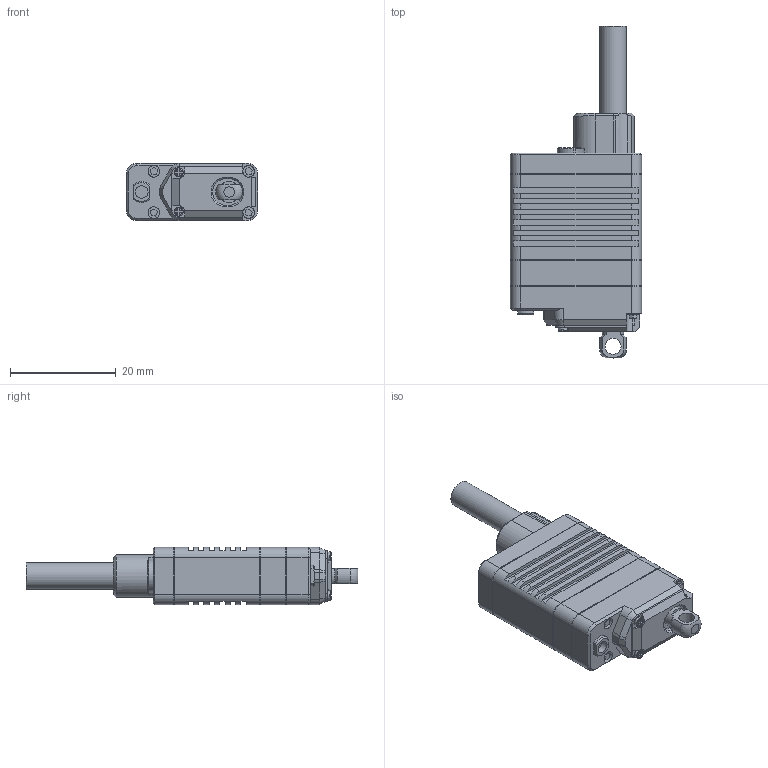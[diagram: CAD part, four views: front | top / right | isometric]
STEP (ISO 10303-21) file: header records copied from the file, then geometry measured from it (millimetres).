
FILE_DESCRIPTION (( 'STEP AP203' ), '1' );
FILE_NAME ('LAS16-0x3D.STEP', '2024-09-19T03:54:00', ( '' ), ( '' ), 'SwSTEP 2.0', 'SolidWorks 2021', '' );
FILE_SCHEMA (( 'CONFIG_CONTROL_DESIGN' ));
Length unit declared in the file: millimetre
Products named in the file (4): ACBO-S30; LAS16-0x3D; exA820116-015祥凄詩杶奪; Part1^LAS16-0x3D
Assembly tree (3 placements, depth 2):
  LAS16-0x3D
    exA820116-015祥凄詩杶奪
    ACBO-S30
    Part1^LAS16-0x3D
Bounding box: 24.8 x 62.7 x 10.8 mm (x, y, z)
Volume: 9112.1 mm3; surface area: 4376.1 mm2
Topology: 3 solids, 15 shells, 559 faces, 1384 edges, 886 vertices
Faces by surface type: plane 361, cylinder 113, cone 56, torus 29
Full cylindrical faces by diameter (mm): 0.95 x2, 1 x6, 1.1 x6, 1.2 x8, 1.221 x4, 1.7 x10, 2 x4, 2.17 x4, 2.2 x8, 2.4 x1, 2.5 x1, 3 x1, 4 x1, 5 x1, 5.5 x1
Entity records: 16405 total; most frequent: CARTESIAN_POINT 3123, DIRECTION 2705, ORIENTED_EDGE 2548, EDGE_CURVE 1274, AXIS2_PLACEMENT_3D 962, VERTEX_POINT 848, VECTOR 781, LINE 781
